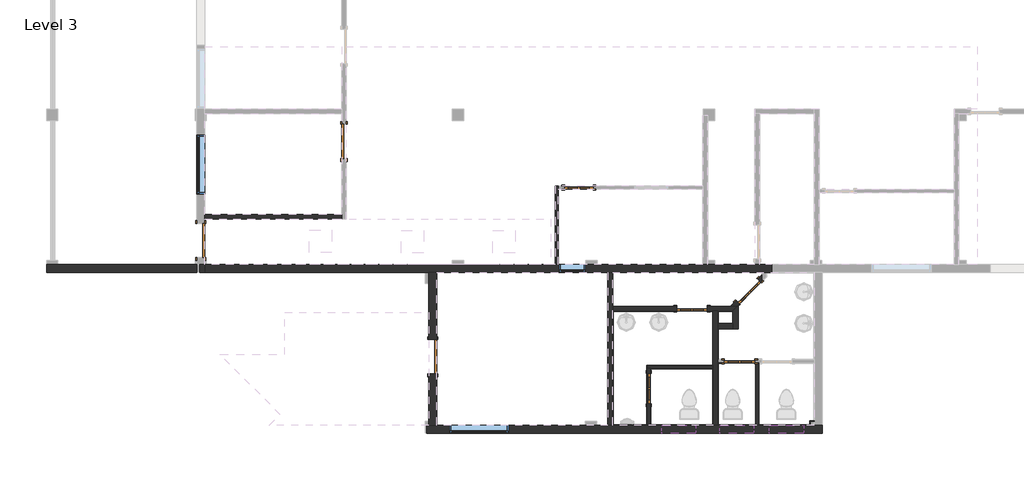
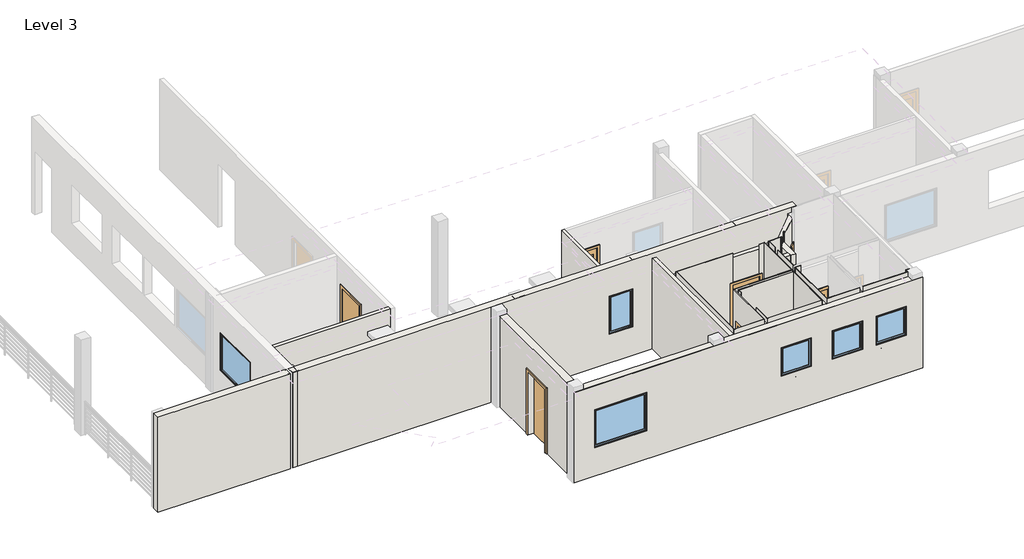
# One storey, part 1 of 4: 39 walls, 8 doors, 6 windows.
"""IFC4 building model written with IfcOpenShell, lengths in millimetres."""

from ifc_helpers import new_model, si_unit, frame, origin, origin_with_axes, place, context, project, spatial, polyline, outline, extrude, faceted_brep, transform, mapped, element, save
from components import door_43f271b1, door_dce19e30, door_ea126e43, door_238e255b, door_9f33a548, door_456b505c, window_b7da1b20, fixed_3_x_3_w3_42a4cb5f, window_a0bf6c86

model = new_model("IFC4")

# Units and contexts
model_context = context("Model", 3, world=origin())
ifc_project = project(units=[si_unit("LENGTHUNIT", "METRE", prefix="MILLI")], contexts=[model_context])

# Site, building, storey
site = spatial("IfcSite", under=ifc_project)
building = spatial("IfcBuilding", under=site)
storey = spatial("IfcBuildingStorey", under=building, Name="Level 3", Elevation=0.0)

# Doors
placement = place(None, origin())
door_shape = door_43f271b1(model_context)
element("IfcDoor", 1, ObjectType="Single-Flush : 36\" x 80\" - D1", at=placement, inside=storey, context=model_context, shape_type="MappedRepresentation", body=[
    mapped(door_shape, transform((-22828.8562367, -194.9058613, 0.0), x_axis=(0.0, 1.0, 0.0), y_axis=(-1.0, 0.0, 0.0), z_axis=(0.0, 0.0, 1.0))),
])
door_2_shape = door_dce19e30(model_context)
element("IfcDoor", 2, ObjectType="Single-Flush : 36\" x 80\" - D1", at=placement, inside=storey, context=model_context, shape_type="MappedRepresentation", body=[
    mapped(door_2_shape, transform((-26653.1437367, -2839.416278, 0.0), x_axis=(0.0, -1.0, 0.0), y_axis=(1.0, 0.0, 0.0), z_axis=(0.0, 0.0, 1.0))),
])
element("IfcDoor", 3, ObjectType="Single-Flush : 36\" x 80\" - D1", at=placement, inside=storey, context=model_context, shape_type="MappedRepresentation", body=[
    mapped(door_2_shape, transform((-20466.6562367, -5946.4183613, 0.0), x_axis=(0.0, -1.0, 0.0), y_axis=(1.0, 0.0, 0.0), z_axis=(0.0, 0.0, 1.0))),
])
door_3_shape = door_ea126e43(model_context)
element("IfcDoor", 4, ObjectType="Single-Glass 3 : 30\" x 80\" - D3", at=placement, inside=storey, context=model_context, shape_type="MappedRepresentation", body=[
    mapped(door_3_shape, transform((-16567.7562367, -1423.6308613, 0.0), x_axis=(-1.0, 0.0, 0.0), y_axis=(0.0, -1.0, 0.0), z_axis=(0.0, 0.0, 1.0))),
])
door_4_shape = door_238e255b(model_context)
element("IfcDoor", 5, ObjectType="Single-Glass 3 : 32\" x 80\" - D2", at=placement, inside=storey, context=model_context, shape_type="MappedRepresentation", body=[
    mapped(door_4_shape, transform((-12041.6148323, -4204.7519569, 0.0), x_axis=(-0.707106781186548, -0.7071067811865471, 0.0), y_axis=(0.7071067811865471, -0.707106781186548, 0.0), z_axis=(0.0, 0.0, 1.0))),
])
door_5_shape = door_9f33a548(model_context)
element("IfcDoor", 6, ObjectType="Single-Glass 3 : 32\" x 80\" - D2", at=placement, inside=storey, context=model_context, shape_type="MappedRepresentation", body=[
    mapped(door_5_shape, transform((-13546.7437367, -4662.1308613, 0.0), x_axis=(1.0, 0.0, 0.0), y_axis=(0.0, 1.0, 0.0), z_axis=(0.0, 0.0, 1.0))),
])
door_6_shape = door_456b505c(model_context)
element("IfcDoor", 7, ObjectType="Single-Glass 3 : 32\" x 80\" - D2", at=placement, inside=storey, context=model_context, shape_type="MappedRepresentation", body=[
    mapped(door_6_shape, transform((-12276.7437367, -6071.8308613, 0.0), x_axis=(1.0, 0.0, 0.0), y_axis=(0.0, 1.0, 0.0), z_axis=(0.0, 0.0, 1.0))),
])
element("IfcDoor", 8, ObjectType="Single-Glass 3 : 32\" x 80\" - D2", at=placement, inside=storey, context=model_context, shape_type="MappedRepresentation", body=[
    mapped(door_6_shape, transform((-14704.0312367, -6797.3183613, 0.0), x_axis=(0.0, 1.0, 0.0), y_axis=(-1.0, 0.0, 0.0), z_axis=(0.0, 0.0, 1.0))),
])

# Walls
element("IfcWall", 9, ObjectType="0.5\" wall tiles-4\" x 6\"", at=placement, inside=storey, context=model_context, shape_type="Brep", body=[
    faceted_brep([(-13954.5537607, -4725.6308613, 0.0), (-15666.0562367, -4725.6308613, 0.0), (-15666.0562367, -4725.6308613, 3048.0), (-13954.5537607, -4725.6308613, 3048.0), (-13954.5537607, -4738.3308613, 0.0), (-13954.5537607, -4738.3308613, 3048.0), (-15653.3562367, -4738.3308613, 3048.0), (-15666.0562367, -4738.3308613, 3048.0), (-15666.0562367, -4738.3308613, 0.0), (-15653.3562367, -4738.3308613, 0.0)], [[[0, 1, 2, 3]], [[4, 5, 6, 7, 8, 9]], [[1, 0, 4, 9, 8]], [[3, 2, 7, 6, 5]], [[0, 3, 5, 4]], [[2, 1, 8, 7]]]),
])
element("IfcWall", 10, ObjectType="0.5\" wall tiles-4\" x 6\"", at=placement, inside=storey, context=model_context, shape_type="Brep", body=[
    faceted_brep([(-15666.0562367, -4738.3308613, 0.0), (-15666.0562367, -7775.2183613, 0.0), (-15666.0562367, -7775.2183613, 3048.0), (-15666.0562367, -4738.3308613, 3048.0), (-15653.3562367, -4738.3308613, 0.0), (-15653.3562367, -4738.3308613, 3048.0), (-15653.3562367, -7762.5183613, 3048.0), (-15653.3562367, -7775.2183613, 3048.0), (-15653.3562367, -7775.2183613, 0.0), (-15653.3562367, -7762.5183613, 0.0)], [[[0, 1, 2, 3]], [[4, 5, 6, 7, 8, 9]], [[1, 0, 4, 9, 8]], [[3, 2, 7, 6, 5]], [[2, 1, 8, 7]], [[0, 3, 5, 4]]]),
])
element("IfcWall", 11, ObjectType="0.5\" wall tiles-4\" x 6\"", at=placement, inside=storey, context=model_context, shape_type="Brep", body=[
    faceted_brep([(-15653.3562367, -7775.2183613, 0.0), (-14743.7187367, -7775.2183613, 0.0), (-14743.7187367, -7775.2183613, 3048.0), (-15653.3562367, -7775.2183613, 3048.0), (-15653.3562367, -7762.5183613, 0.0), (-15653.3562367, -7762.5183613, 3048.0), (-14756.4187367, -7762.5183613, 3048.0), (-14743.7187367, -7762.5183613, 3048.0), (-14743.7187367, -7762.5183613, 0.0), (-14756.4187367, -7762.5183613, 0.0)], [[[0, 1, 2, 3]], [[4, 5, 6, 7, 8, 9]], [[1, 0, 4, 9, 8]], [[3, 2, 7, 6, 5]], [[2, 1, 8, 7]], [[0, 3, 5, 4]]]),
])
element("IfcWall", 12, ObjectType="0.5\" wall tiles-4\" x 6\"", at=placement, inside=storey, context=model_context, shape_type="Brep", body=[
    faceted_brep([(-14743.7187367, -7762.5183613, 0.0), (-14743.7187367, -6184.5433613, 0.0), (-14743.7187367, -6171.8433613, 0.0), (-14743.7187367, -6171.8433613, 3048.0), (-14743.7187367, -6184.5433613, 3048.0), (-14743.7187367, -7762.5183613, 3048.0), (-14756.4187367, -7762.5183613, 0.0), (-14756.4187367, -7762.5183613, 3048.0), (-14756.4187367, -6171.8433613, 3048.0), (-14756.4187367, -6171.8433613, 0.0)], [[[0, 1, 2, 3, 4, 5]], [[6, 7, 8, 9]], [[2, 1, 0, 6, 9]], [[5, 4, 3, 8, 7]], [[3, 2, 9, 8]], [[0, 5, 7, 6]]]),
])
element("IfcWall", 13, ObjectType="0.5\" wall tiles-4\" x 6\"", at=placement, inside=storey, context=model_context, shape_type="Brep", body=[
    faceted_brep([(-14743.7187367, -6184.5433613, 0.0), (-12987.9437367, -6184.5433613, 0.0), (-12987.9437367, -6184.5433613, 3048.0), (-14743.7187367, -6184.5433613, 3048.0), (-14743.7187367, -6171.8433613, 0.0), (-14743.7187367, -6171.8433613, 3048.0), (-13000.6437367, -6171.8433613, 3048.0), (-12987.9437367, -6171.8433613, 3048.0), (-12987.9437367, -6171.8433613, 0.0), (-13000.6437367, -6171.8433613, 0.0)], [[[0, 1, 2, 3]], [[4, 5, 6, 7, 8, 9]], [[1, 0, 4, 9, 8]], [[3, 2, 7, 6, 5]], [[2, 1, 8, 7]], [[0, 3, 5, 4]]]),
])
element("IfcWall", 14, ObjectType="0.5\" wall tiles-4\" x 6\"", at=placement, inside=storey, context=model_context, shape_type="Brep", body=[
    faceted_brep([(-12987.9437367, -6171.8433613, 0.0), (-12987.9437367, -4725.6308613, 0.0), (-12987.9437367, -4725.6308613, 3048.0), (-12987.9437367, -6171.8433613, 3048.0), (-13000.6437367, -6171.8433613, 0.0), (-13000.6437367, -6171.8433613, 3048.0), (-13000.6437367, -4738.3308613, 3048.0), (-13000.6437367, -4725.6308613, 3048.0), (-13000.6437367, -4725.6308613, 0.0), (-13000.6437367, -4738.3308613, 0.0)], [[[0, 1, 2, 3]], [[4, 5, 6, 7, 8, 9]], [[1, 0, 4, 9, 8]], [[3, 2, 7, 6, 5]], [[2, 1, 8, 7]], [[0, 3, 5, 4]]]),
])
element("IfcWall", 15, ObjectType="0.5\" wall tiles-4\" x 6\"", at=placement, inside=storey, context=model_context, shape_type="SweptSolid", body=[
    extrude(outline(polyline([(-13140.3437367, -4725.6308613), (-13000.6437367, -4725.6308613), (-13000.6437367, -4738.3308613), (-13140.3437367, -4738.3308613), (-13140.3437367, -4725.6308613)])), origin_with_axes(), (0.0, 0.0, 1.0), 3048.0),
])
element("IfcWall", 16, ObjectType="0.5\" wall tiles-4\" x 6\"", at=placement, inside=storey, context=model_context, shape_type="Brep", body=[
    faceted_brep([(-12987.9437367, -6263.9183613, 0.0), (-14664.3437367, -6263.9183613, 0.0), (-14664.3437367, -6263.9183613, 3048.0), (-12987.9437367, -6263.9183613, 3048.0), (-12987.9437367, -6276.6183613, 0.0), (-12987.9437367, -6276.6183613, 3048.0), (-13000.6437367, -6276.6183613, 3048.0), (-14651.6437367, -6276.6183613, 3048.0), (-14664.3437367, -6276.6183613, 3048.0), (-14664.3437367, -6276.6183613, 0.0), (-14651.6437367, -6276.6183613, 0.0), (-13000.6437367, -6276.6183613, 0.0)], [[[0, 1, 2, 3]], [[4, 5, 6, 7, 8, 9, 10, 11]], [[1, 0, 4, 11, 10, 9]], [[3, 2, 8, 7, 6, 5]], [[2, 1, 9, 8]], [[0, 3, 5, 4]]]),
])
element("IfcWall", 17, ObjectType="0.5\" wall tiles-4\" x 6\"", at=placement, inside=storey, context=model_context, shape_type="SweptSolid", body=[
    extrude(outline(polyline([(-14664.3437367, -6390.9183613), (-14664.3437367, -6276.6183613), (-14651.6437367, -6276.6183613), (-14651.6437367, -6390.9183613), (-14664.3437367, -6390.9183613)])), origin_with_axes(), (0.0, 0.0, 1.0), 3048.0),
])
element("IfcWall", 18, ObjectType="0.5\" wall tiles-4\" x 6\"", at=placement, inside=storey, context=model_context, shape_type="Brep", body=[
    faceted_brep([(-12987.9437367, -7775.2183613, 0.0), (-12987.9437367, -6276.6183613, 0.0), (-12987.9437367, -6276.6183613, 3048.0), (-12987.9437367, -7775.2183613, 3048.0), (-13000.6437367, -7775.2183613, 0.0), (-13000.6437367, -7775.2183613, 3048.0), (-13000.6437367, -7762.5183613, 3048.0), (-13000.6437367, -6276.6183613, 3048.0), (-13000.6437367, -6276.6183613, 0.0), (-13000.6437367, -7762.5183613, 0.0)], [[[0, 1, 2, 3]], [[4, 5, 6, 7, 8, 9]], [[1, 0, 4, 9, 8]], [[3, 2, 7, 6, 5]], [[0, 3, 5, 4]], [[2, 1, 8, 7]]]),
])
element("IfcWall", 19, ObjectType="0.5\" wall tiles-4\" x 6\"", at=placement, inside=storey, context=model_context, shape_type="Brep", body=[
    faceted_brep([(-14664.3437367, -7205.1283853, 0.0), (-14664.3437367, -7775.2183613, 0.0), (-14664.3437367, -7775.2183613, 3048.0), (-14664.3437367, -7205.1283853, 3048.0), (-14651.6437367, -7205.1283853, 0.0), (-14651.6437367, -7205.1283853, 3048.0), (-14651.6437367, -7762.5183613, 3048.0), (-14651.6437367, -7775.2183613, 3048.0), (-14651.6437367, -7775.2183613, 0.0), (-14651.6437367, -7762.5183613, 0.0)], [[[0, 1, 2, 3]], [[4, 5, 6, 7, 8, 9]], [[1, 0, 4, 9, 8]], [[3, 2, 7, 6, 5]], [[0, 3, 5, 4]], [[2, 1, 8, 7]]]),
])
element("IfcWall", 20, ObjectType="0.5\" wall tiles-4\" x 6\"", at=placement, inside=storey, context=model_context, shape_type="SweptSolid", body=[
    extrude(outline(polyline([(-13000.6437367, -7775.2183613), (-14651.6437367, -7775.2183613), (-14651.6437367, -7762.5183613), (-13000.6437367, -7762.5183613), (-13000.6437367, -7775.2183613)])), origin_with_axes(), (0.0, 0.0, 1.0), 3048.0),
])
element("IfcWall", 21, ObjectType="0.5\" wall tiles-4\" x 6\"", at=placement, inside=storey, context=model_context, shape_type="Brep", body=[
    faceted_brep([(-12285.1165867, -4535.8112085, 0.0), (-12311.1969338, -4561.8915556, 0.0), (-12311.1969338, -4561.8915556, 2743.2), (-12311.1969338, -4561.8915556, 3048.0), (-12285.1165867, -4535.8112085, 3048.0), (-12276.1363305, -4544.7914646, 0.0), (-12276.1363305, -4544.7914646, 3048.0), (-12311.1969338, -4579.8520679, 3048.0), (-12311.1969338, -4579.8520679, 0.0)], [[[0, 1, 2, 3, 4]], [[5, 6, 7, 8]], [[1, 0, 5, 8]], [[4, 3, 7, 6]], [[0, 4, 6, 5]], [[3, 2, 1, 8, 7]]]),
])
element("IfcWall", 22, ObjectType="0.5\" wall tiles-4\" x 6\"", at=placement, inside=storey, context=model_context, shape_type="Brep", body=[
    faceted_brep([(-12474.9362395, -4725.6308613, 0.0), (-12860.9437367, -4725.6308613, 0.0), (-12860.9437367, -4725.6308613, 3048.0), (-12474.9362395, -4725.6308613, 3048.0), (-12487.6362395, -4738.3308613, 0.0), (-12487.6362395, -4738.3308613, 3048.0), (-12848.2437367, -4738.3308613, 3048.0), (-12860.9437367, -4738.3308613, 3048.0), (-12860.9437367, -4738.3308613, 0.0), (-12848.2437367, -4738.3308613, 0.0)], [[[0, 1, 2, 3]], [[4, 5, 6, 7, 8, 9]], [[1, 0, 4, 9, 8]], [[3, 2, 7, 6, 5]], [[2, 1, 8, 7]], [[0, 3, 5, 4]]]),
])
element("IfcWall", 23, ObjectType="0.5\" wall tiles-4\" x 6\"", at=placement, inside=storey, context=model_context, shape_type="Brep", body=[
    faceted_brep([(-12860.9437367, -4738.3308613, 0.0), (-12860.9437367, -5055.8308613, 0.0), (-12860.9437367, -5055.8308613, 2743.2), (-12860.9437367, -5055.8308613, 3048.0), (-12860.9437367, -4738.3308613, 3048.0), (-12848.2437367, -4738.3308613, 0.0), (-12848.2437367, -4738.3308613, 3048.0), (-12848.2437367, -5055.8308613, 3048.0), (-12848.2437367, -5055.8308613, 0.0)], [[[0, 1, 2, 3, 4]], [[5, 6, 7, 8]], [[1, 0, 5, 8]], [[4, 3, 7, 6]], [[0, 4, 6, 5]], [[3, 2, 1, 8, 7]]]),
])
element("IfcWall", 24, ObjectType="0.5\" wall tiles-4\" x 6\"", at=placement, inside=storey, context=model_context, shape_type="Brep", body=[
    faceted_brep([(-12860.9437367, -5208.2308613, 0.0), (-12860.9437367, -6019.4433613, 0.0), (-12860.9437367, -6019.4433613, 3048.0), (-12860.9437367, -5208.2308613, 3048.0), (-12860.9437367, -5208.2308613, 2743.2), (-12848.2437367, -5208.2308613, 0.0), (-12848.2437367, -5208.2308613, 3048.0), (-12848.2437367, -6019.4433613, 3048.0), (-12848.2437367, -6019.4433613, 0.0)], [[[0, 1, 2, 3, 4]], [[5, 6, 7, 8]], [[1, 0, 5, 8]], [[3, 2, 7, 6]], [[2, 1, 8, 7]], [[0, 4, 3, 6, 5]]]),
])
element("IfcWall", 25, ObjectType="0.5\" wall tiles-4\" x 6\"", at=placement, inside=storey, context=model_context, shape_type="Brep", body=[
    faceted_brep([(-12463.5969338, -4714.2915556, 0.0), (-12474.9362395, -4725.6308613, 0.0), (-12487.6362395, -4738.3308613, 0.0), (-12487.6362395, -4738.3308613, 3048.0), (-12474.9362395, -4725.6308613, 3048.0), (-12463.5969338, -4714.2915556, 3048.0), (-12463.5969338, -4714.2915556, 2743.2), (-12463.5969338, -4732.2520679, 0.0), (-12463.5969338, -4732.2520679, 3048.0), (-12469.6757273, -4738.3308613, 3048.0), (-12469.6757273, -4738.3308613, 0.0)], [[[0, 1, 2, 3, 4, 5, 6]], [[7, 8, 9, 10]], [[2, 1, 0, 7, 10]], [[5, 4, 3, 9, 8]], [[3, 2, 10, 9]], [[0, 6, 5, 8, 7]]]),
])
element("IfcWall", 26, ObjectType="0.5\" wall tiles-4\" x 6\"", at=placement, inside=storey, context=model_context, shape_type="Brep", body=[
    faceted_brep([(-12683.2677532, -6111.5183613, 0.0), (-12860.9437367, -6111.5183613, 0.0), (-12860.9437367, -6111.5183613, 3048.0), (-12683.2677532, -6111.5183613, 3048.0), (-12683.2677532, -6124.2183613, 0.0), (-12683.2677532, -6124.2183613, 3048.0), (-12848.2437367, -6124.2183613, 3048.0), (-12860.9437367, -6124.2183613, 3048.0), (-12860.9437367, -6124.2183613, 0.0), (-12848.2437367, -6124.2183613, 0.0)], [[[0, 1, 2, 3]], [[4, 5, 6, 7, 8, 9]], [[1, 0, 4, 9, 8]], [[3, 2, 7, 6, 5]], [[0, 3, 5, 4]], [[2, 1, 8, 7]]]),
])
element("IfcWall", 27, ObjectType="0.5\" wall tiles-4\" x 6\"", at=placement, inside=storey, context=model_context, shape_type="Brep", body=[
    faceted_brep([(-12860.9437367, -6124.2183613, 0.0), (-12860.9437367, -7775.2183613, 0.0), (-12860.9437367, -7775.2183613, 3048.0), (-12860.9437367, -6124.2183613, 3048.0), (-12848.2437367, -6124.2183613, 0.0), (-12848.2437367, -6124.2183613, 3048.0), (-12848.2437367, -7762.5183613, 3048.0), (-12848.2437367, -7775.2183613, 3048.0), (-12848.2437367, -7775.2183613, 0.0), (-12848.2437367, -7762.5183613, 0.0)], [[[0, 1, 2, 3]], [[4, 5, 6, 7, 8, 9]], [[1, 0, 4, 9, 8]], [[3, 2, 7, 6, 5]], [[2, 1, 8, 7]], [[0, 3, 5, 4]]]),
])
element("IfcWall", 28, ObjectType="0.5\" wall tiles-4\" x 6\"", at=placement, inside=storey, context=model_context, shape_type="Brep", body=[
    faceted_brep([(-12848.2437367, -7775.2183613, 0.0), (-11848.1187367, -7775.2183613, 0.0), (-11848.1187367, -7775.2183613, 3048.0), (-12848.2437367, -7775.2183613, 3048.0), (-12848.2437367, -7762.5183613, 0.0), (-12848.2437367, -7762.5183613, 3048.0), (-11860.8187367, -7762.5183613, 3048.0), (-11848.1187367, -7762.5183613, 3048.0), (-11848.1187367, -7762.5183613, 0.0), (-11860.8187367, -7762.5183613, 0.0)], [[[0, 1, 2, 3]], [[4, 5, 6, 7, 8, 9]], [[1, 0, 4, 9, 8]], [[3, 2, 7, 6, 5]], [[2, 1, 8, 7]], [[0, 3, 5, 4]]]),
])
element("IfcWall", 29, ObjectType="0.5\" wall tiles-4\" x 6\"", at=placement, inside=storey, context=model_context, shape_type="Brep", body=[
    faceted_brep([(-11756.0437367, -7775.2183613, 0.0), (-10389.2062367, -7775.2183613, 0.0), (-10389.2062367, -7775.2183613, 3048.0), (-11756.0437367, -7775.2183613, 3048.0), (-11756.0437367, -7762.5183613, 0.0), (-11756.0437367, -7762.5183613, 3048.0), (-10401.9062367, -7762.5183613, 3048.0), (-10389.2062367, -7762.5183613, 3048.0), (-10389.2062367, -7762.5183613, 0.0), (-10401.9062367, -7762.5183613, 0.0)], [[[0, 1, 2, 3]], [[4, 5, 6, 7, 8, 9]], [[1, 0, 4, 9, 8]], [[3, 2, 7, 6, 5]], [[2, 1, 8, 7]], [[0, 3, 5, 4]]]),
])
element("IfcWall", 30, ObjectType="0.5\" wall tiles-4\" x 6\"", at=placement, inside=storey, context=model_context, shape_type="Brep", body=[
    faceted_brep([(-10389.2062367, -7762.5183613, 0.0), (-10389.2062367, -7676.7933613, 0.0), (-10389.2062367, -7664.0933613, 0.0), (-10389.2062367, -7664.0933613, 3048.0), (-10389.2062367, -7676.7933613, 3048.0), (-10389.2062367, -7762.5183613, 3048.0), (-10401.9062367, -7762.5183613, 0.0), (-10401.9062367, -7762.5183613, 3048.0), (-10401.9062367, -7664.0933613, 3048.0), (-10401.9062367, -7664.0933613, 0.0)], [[[0, 1, 2, 3, 4, 5]], [[6, 7, 8, 9]], [[2, 1, 0, 6, 9]], [[5, 4, 3, 8, 7]], [[3, 2, 9, 8]], [[0, 5, 7, 6]]]),
])
element("IfcWall", 31, ObjectType="0.5\" wall tiles-4\" x 6\"", at=placement, inside=storey, context=model_context, shape_type="Brep", body=[
    faceted_brep([(-10389.2062367, -7676.7933613, 0.0), (-10290.7812367, -7676.7933613, 0.0), (-10290.7812367, -7676.7933613, 3048.0), (-10389.2062367, -7676.7933613, 3048.0), (-10389.2062367, -7664.0933613, 0.0), (-10389.2062367, -7664.0933613, 3048.0), (-10303.4812367, -7664.0933613, 3048.0), (-10290.7812367, -7664.0933613, 3048.0), (-10290.7812367, -7664.0933613, 0.0), (-10303.4812367, -7664.0933613, 0.0)], [[[0, 1, 2, 3]], [[4, 5, 6, 7, 8, 9]], [[1, 0, 4, 9, 8]], [[3, 2, 7, 6, 5]], [[2, 1, 8, 7]], [[0, 3, 5, 4]]]),
])
element("IfcWall", 32, ObjectType="Generic - 6\"", at=placement, inside=storey, context=model_context, shape_type="Brep", body=[
    faceted_brep([(-12463.5969338, -4714.2915556, 0.0), (-12463.5969338, -4732.2520679, 0.0), (-12463.5969338, -5055.8308613, 0.0), (-12463.5969338, -5208.2308613, 0.0), (-12463.5969338, -5208.2308613, 2743.2), (-12463.5969338, -5055.8308613, 2743.2), (-12463.5969338, -4714.2915556, 2743.2), (-12311.1969338, -4561.8915556, 0.0), (-12311.1969338, -4561.8915556, 2743.2), (-12311.1969338, -5208.2308613, 2743.2), (-12311.1969338, -5208.2308613, 0.0), (-12311.1969338, -4579.8520679, 0.0), (-12347.9362395, -4598.6308613, 0.0)], [[[0, 1, 2, 3, 4, 5, 6]], [[7, 8, 9, 10, 11]], [[3, 2, 1, 0, 12, 7, 11, 10]], [[6, 5, 4, 9, 8]], [[4, 3, 10, 9]], [[0, 6, 8, 7, 12]]]),
])
element("IfcWall", 33, ObjectType="Generic - 6\"", at=placement, inside=storey, context=model_context, shape_type="Brep", body=[
    faceted_brep([(-12463.5969338, -5055.8308613, 0.0), (-12848.2437367, -5055.8308613, 0.0), (-12860.9437367, -5055.8308613, 0.0), (-12860.9437367, -5055.8308613, 2743.2), (-12463.5969338, -5055.8308613, 2743.2), (-12463.5969338, -5208.2308613, 0.0), (-12463.5969338, -5208.2308613, 2743.2), (-12860.9437367, -5208.2308613, 2743.2), (-12860.9437367, -5208.2308613, 0.0), (-12848.2437367, -5208.2308613, 0.0)], [[[0, 1, 2, 3, 4]], [[5, 6, 7, 8, 9]], [[2, 1, 0, 5, 9, 8]], [[4, 3, 7, 6]], [[3, 2, 8, 7]], [[0, 4, 6, 5]]]),
])
element("IfcWall", 34, ObjectType="Generic - 8\" Masonry existing", at=placement, inside=storey, context=model_context, shape_type="SweptSolid", body=[
    extrude(outline(polyline([(-26762.6812367, -3696.9308613), (-30767.9437367, -3696.9308613), (-30767.9437367, -3477.8558613), (-26762.6812367, -3477.8558613), (-26762.6812367, -3696.9308613)])), origin_with_axes(), (0.0, 0.0, 1.0), 3048.0),
])
element("IfcWall", 35, ObjectType="Generic - 8\" Masonry existing", at=placement, inside=storey, context=model_context, shape_type="SweptSolid", body=[
    extrude(outline(polyline([(-6403.6183613, 2032.0), (-6403.6183613, 0.0), (-7775.2183613, 0.0), (-7775.2183613, 2895.6), (-3696.9308613, 2895.6), (-3696.9308613, 0.0), (-5489.2183613, 0.0), (-5489.2183613, 2032.0), (-6403.6183613, 2032.0)])), frame((-20576.1937367, 0.0, 0.0), z_axis=(1.0, 0.0, 0.0), x_axis=(0.0, 1.0, 0.0)), (0.0, 0.0, 1.0), 219.075),
])
element("IfcWall", 36, ObjectType="Generic - 8\" Masonry existing", at=placement, inside=storey, context=model_context, shape_type="Brep", body=[
    faceted_brep([(-20625.5991484, -7994.2933613, 0.0), (-20625.5991484, -7994.2933613, 2895.6), (-20625.5991484, -7981.5933613, 2895.6), (-20625.5991484, -7775.2183613, 2895.6), (-20625.5991484, -7775.2183613, 0.0), (-10071.7062367, -7994.2933613, 0.0), (-20576.1937367, -7775.2183613, 0.0), (-20357.1187367, -7775.2183613, 0.0), (-15789.8812367, -7775.2183613, 0.0), (-15666.0562367, -7775.2183613, 0.0), (-14743.7187367, -7775.2183613, 0.0), (-14664.3437367, -7775.2183613, 0.0), (-12987.9437367, -7775.2183613, 0.0), (-12860.9437367, -7775.2183613, 0.0), (-11848.1187367, -7775.2183613, 0.0), (-11768.7437367, -7775.2183613, 0.0), (-10290.7812367, -7775.2183613, 0.0), (-10071.7062367, -7775.2183613, 0.0), (-10071.7062367, -7994.2933613, 2895.6), (-10084.4062367, -7994.2933613, 2895.6), (-14359.5437367, -7994.2933613, 2133.6), (-13445.1437367, -7994.2933613, 2133.6), (-13445.1437367, -7994.2933613, 1219.2), (-14359.5437367, -7994.2933613, 1219.2), (-12811.7312367, -7994.2933613, 2133.6), (-11897.3312367, -7994.2933613, 2133.6), (-11897.3312367, -7994.2933613, 1219.2), (-12811.7312367, -7994.2933613, 1219.2), (-11486.9624867, -7994.2933613, 2133.6), (-10572.5624867, -7994.2933613, 2133.6), (-10572.5624867, -7994.2933613, 1219.2), (-11486.9624867, -7994.2933613, 1219.2), (-20017.3937367, -7994.2933613, 2133.6), (-18442.5937367, -7994.2933613, 2133.6), (-18442.5937367, -7994.2933613, 914.4), (-20017.3937367, -7994.2933613, 914.4), (-20576.1937367, -7775.2183613, 2895.6), (-20357.1187367, -7775.2183613, 2895.6), (-15789.8812367, -7775.2183613, 2895.6), (-15666.0562367, -7775.2183613, 2895.6), (-14743.7187367, -7775.2183613, 2895.6), (-14664.3437367, -7775.2183613, 2895.6), (-12987.9437367, -7775.2183613, 2895.6), (-12860.9437367, -7775.2183613, 2895.6), (-11848.1187367, -7775.2183613, 2895.6), (-11768.7437367, -7775.2183613, 2895.6), (-10290.7812367, -7775.2183613, 2895.6), (-10084.4062367, -7775.2183613, 2895.6), (-10071.7062367, -7775.2183613, 2895.6), (-14359.5437367, -7775.2183613, 2133.6), (-14359.5437367, -7775.2183613, 1219.2), (-13445.1437367, -7775.2183613, 1219.2), (-13445.1437367, -7775.2183613, 2133.6), (-12811.7312367, -7775.2183613, 2133.6), (-12811.7312367, -7775.2183613, 1219.2), (-11897.3312367, -7775.2183613, 1219.2), (-11897.3312367, -7775.2183613, 2133.6), (-11486.9624867, -7775.2183613, 2133.6), (-11486.9624867, -7775.2183613, 1219.2), (-10572.5624867, -7775.2183613, 1219.2), (-10572.5624867, -7775.2183613, 2133.6), (-20017.3937367, -7775.2183613, 2133.6), (-20017.3937367, -7775.2183613, 914.4), (-18442.5937367, -7775.2183613, 914.4), (-18442.5937367, -7775.2183613, 2133.6), (-10071.7062367, -7981.5933613, 2895.6), (-10084.4062367, -7981.5933613, 2895.6)], [[[0, 1, 2, 3, 4]], [[5, 0, 4, 6, 7, 8, 9, 10, 11, 12, 13, 14, 15, 16, 17]], [[0, 5, 18, 19, 1], [20, 21, 22, 23], [24, 25, 26, 27], [28, 29, 30, 31], [32, 33, 34, 35]], [[4, 3, 36, 37, 38, 39, 40, 41, 42, 43, 44, 45, 46, 47, 48, 17, 16, 15, 14, 13, 12, 11, 10, 9, 8, 7, 6], [49, 50, 51, 52], [53, 54, 55, 56], [57, 58, 59, 60], [61, 62, 63, 64]], [[18, 5, 17, 48, 65]], [[1, 19, 66, 2]], [[65, 48, 47, 66]], [[19, 18, 65, 66]], [[66, 47, 46, 45, 44, 43, 42, 41, 40, 39, 38, 37, 36, 3, 2]], [[50, 49, 20, 23]], [[51, 50, 23, 22]], [[52, 51, 22, 21]], [[49, 52, 21, 20]], [[54, 53, 24, 27]], [[55, 54, 27, 26]], [[56, 55, 26, 25]], [[53, 56, 25, 24]], [[58, 57, 28, 31]], [[59, 58, 31, 30]], [[60, 59, 30, 29]], [[57, 60, 29, 28]], [[62, 61, 32, 35]], [[63, 62, 35, 34]], [[64, 63, 34, 33]], [[61, 64, 33, 32]]]),
])
element("IfcWall", 37, ObjectType="Generic - 8\" Masonry existing", at=placement, inside=storey, context=model_context, shape_type="Brep", body=[
    faceted_brep([(-11425.8437367, -3696.9308613, 3048.0), (-11425.8437367, -3696.9308613, 2895.6), (-11425.8437367, -3696.9308613, 0.0), (-11425.8437367, -3477.8558613, 0.0), (-11425.8437367, -3477.8558613, 2895.6), (-11425.8437367, -3477.8558613, 3048.0), (-11560.7812367, -3696.9308613, 0.0), (-11684.6062367, -3696.9308613, 0.0), (-15666.0562367, -3696.9308613, 0.0), (-15789.8812367, -3696.9308613, 0.0), (-20357.1187367, -3696.9308613, 0.0), (-20576.1937367, -3696.9308613, 0.0), (-26543.6062367, -3696.9308613, 0.0), (-26543.6062367, -3477.8558613, 0.0), (-17201.1687367, -3477.8558613, 0.0), (-17121.7937367, -3477.8558613, 0.0), (-13257.8187367, -3477.8558613, 0.0), (-13133.9937367, -3477.8558613, 0.0), (-11868.7562367, -3477.8558613, 0.0), (-11744.9312367, -3477.8558613, 0.0), (-26543.6062367, -3696.9308613, 3048.0), (-26543.6062367, -3477.8558613, 3048.0), (-17096.3937367, -3696.9308613, 2133.6), (-16385.1937367, -3696.9308613, 2133.6), (-16385.1937367, -3696.9308613, 914.4), (-17096.3937367, -3696.9308613, 914.4), (-17096.3937367, -3477.8558613, 2133.6), (-17096.3937367, -3477.8558613, 914.4), (-16385.1937367, -3477.8558613, 914.4), (-16385.1937367, -3477.8558613, 2133.6)], [[[0, 1, 2, 3, 4, 5]], [[2, 6, 7, 8, 9, 10, 11, 12, 13, 14, 15, 16, 17, 18, 19, 3]], [[20, 0, 5, 21]], [[12, 11, 10, 9, 8, 7, 6, 2, 1, 0, 20], [22, 23, 24, 25]], [[13, 21, 5, 4, 3, 19, 18, 17, 16, 15, 14], [26, 27, 28, 29]], [[12, 20, 21, 13]], [[27, 26, 22, 25]], [[28, 27, 25, 24]], [[29, 28, 24, 23]], [[26, 29, 23, 22]]]),
])
element("IfcWall", 38, ObjectType="Generic - 8\" Masonry existing", at=placement, inside=storey, context=model_context, shape_type="SweptSolid", body=[
    extrude(outline(polyline([(-26543.6062367, -3696.9308613), (-26686.4812367, -3696.9308613), (-26686.4812367, -3477.8558613), (-26543.6062367, -3477.8558613), (-26543.6062367, -3696.9308613)])), origin_with_axes(), (0.0, 0.0, 1.0), 3048.0),
])
element("IfcWall", 39, ObjectType="Interior - 3 1/8\" Partition (1-hr)", at=placement, inside=storey, context=model_context, shape_type="Brep", body=[
    faceted_brep([(-17201.1687367, -1383.9433613, 0.0), (-17201.1687367, -3477.8558613, 0.0), (-17201.1687367, -3477.8558613, 2895.6), (-17201.1687367, -1383.9433613, 2895.6), (-17121.7937367, -1383.9433613, 0.0), (-17121.7937367, -1383.9433613, 2895.6), (-17121.7937367, -1463.3183613, 2895.6), (-17121.7937367, -3477.8558613, 2895.6), (-17121.7937367, -3477.8558613, 0.0), (-17121.7937367, -1463.3183613, 0.0)], [[[0, 1, 2, 3]], [[4, 5, 6, 7, 8, 9]], [[1, 0, 4, 9, 8]], [[3, 2, 7, 6, 5]], [[0, 3, 5, 4]], [[2, 1, 8, 7]]]),
])
element("IfcWall", 40, ObjectType="Interior - 3 1/8\" Partition (1-hr)", at=placement, inside=storey, context=model_context, shape_type="SweptSolid", body=[
    extrude(outline(polyline([(-11768.7437367, -6111.5183613), (-11768.7437367, -7775.2183613), (-11848.1187367, -7775.2183613), (-11848.1187367, -6111.5183613), (-11768.7437367, -6111.5183613)])), origin_with_axes(), (0.0, 0.0, 1.0), 2895.6),
])
element("IfcWall", 41, ObjectType="Interior - 3 1/8\" Partition (1-hr)", at=placement, inside=storey, context=model_context, shape_type="Brep", body=[
    faceted_brep([(-12987.9437367, -6184.5433613, 0.0), (-14743.7187367, -6184.5433613, 0.0), (-14743.7187367, -6184.5433613, 2895.6), (-12987.9437367, -6184.5433613, 2895.6), (-12987.9437367, -6263.9183613, 0.0), (-12987.9437367, -6263.9183613, 2895.6), (-14664.3437367, -6263.9183613, 2895.6), (-14743.7187367, -6263.9183613, 2895.6), (-14743.7187367, -6263.9183613, 0.0), (-14664.3437367, -6263.9183613, 0.0)], [[[0, 1, 2, 3]], [[4, 5, 6, 7, 8, 9]], [[1, 0, 4, 9, 8]], [[3, 2, 7, 6, 5]], [[2, 1, 8, 7]], [[0, 3, 5, 4]]]),
])
element("IfcWall", 42, ObjectType="Interior - 3 1/8\" Partition (1-hr)", at=placement, inside=storey, context=model_context, shape_type="SweptSolid", body=[
    extrude(outline(polyline([(-7775.2183613, 2895.6), (-6263.9183613, 2895.6), (-6263.9183613, 0.0), (-6391.0423778, 0.0), (-6391.0423778, 2032.0), (-7203.8423778, 2032.0), (-7203.8423778, 0.0), (-7775.2183613, 0.0), (-7775.2183613, 2895.6)])), frame((-14743.7187367, 0.0, 0.0), z_axis=(1.0, 0.0, 0.0), x_axis=(0.0, 1.0, 0.0)), (0.0, 0.0, 1.0), 79.375),
])
element("IfcWall", 43, ObjectType="Interior - 5 1/2\" Partition (1-hr)", at=placement, inside=storey, context=model_context, shape_type="Brep", body=[
    faceted_brep([(-15789.8812367, -3696.9308613, 0.0), (-15789.8812367, -7775.2183613, 0.0), (-15789.8812367, -7775.2183613, 2895.6), (-15789.8812367, -3696.9308613, 2895.6), (-15666.0562367, -3696.9308613, 0.0), (-15666.0562367, -3696.9308613, 2895.6), (-15666.0562367, -4598.6308613, 2895.6), (-15666.0562367, -4725.6308613, 2895.6), (-15666.0562367, -7775.2183613, 2895.6), (-15666.0562367, -7775.2183613, 0.0), (-15666.0562367, -4725.6308613, 0.0), (-15666.0562367, -4598.6308613, 0.0)], [[[0, 1, 2, 3]], [[4, 5, 6, 7, 8, 9, 10, 11]], [[1, 0, 4, 11, 10, 9]], [[3, 2, 8, 7, 6, 5]], [[2, 1, 9, 8]], [[0, 3, 5, 4]]]),
])
element("IfcWall", 44, ObjectType="Interior - 5 1/2\" Partition (1-hr)", at=placement, inside=storey, context=model_context, shape_type="SweptSolid", body=[
    extrude(outline(polyline([(-22890.7687367, -2269.2391947), (-26543.6062367, -2269.2391947), (-26543.6062367, -2145.4141947), (-22890.7687367, -2145.4141947), (-22890.7687367, -2269.2391947)])), origin_with_axes(), (0.0, 0.0, 1.0), 2895.6),
])
element("IfcWall", 45, ObjectType="Interior - 5 1/2\" Partition (1-hr)", at=placement, inside=storey, context=model_context, shape_type="Brep", body=[
    faceted_brep([(-12523.0512339, -4598.6308613, 2895.6), (-11684.6062367, -3760.1858642, 2895.6), (-11684.6062367, -3760.1858642, 0.0), (-11797.9376921, -3873.5173196, 0.0), (-11797.9376921, -3873.5173196, 2032.0), (-12372.6740838, -4448.2537113, 2032.0), (-12372.6740838, -4448.2537113, 0.0), (-12523.0512339, -4598.6308613, 0.0), (-11684.6062367, -3935.3008585, 2895.6), (-12347.9362395, -4598.6308613, 2895.6), (-12347.9362395, -4598.6308613, 0.0), (-12311.1969338, -4561.8915556, 0.0), (-12285.1165867, -4535.8112085, 0.0), (-12285.1165867, -4535.8112085, 2032.0), (-11710.3801949, -3961.0748167, 2032.0), (-11710.3801949, -3961.0748167, 0.0), (-11684.6062367, -3935.3008585, 0.0)], [[[0, 1, 2, 3, 4, 5, 6, 7]], [[8, 9, 10, 11, 12, 13, 14, 15, 16]], [[2, 16, 15, 3]], [[10, 7, 6, 12, 11]], [[1, 0, 9, 8]], [[2, 1, 8, 16]], [[0, 7, 10, 9]], [[5, 13, 12, 6]], [[13, 5, 4, 14]], [[14, 4, 3, 15]]]),
])
element("IfcWall", 46, ObjectType="Interior - 5\" Partition (2-hr)", at=placement, inside=storey, context=model_context, shape_type="Brep", body=[
    faceted_brep([(-13140.4677532, -4725.6308613, 2032.0), (-13140.4677532, -4725.6308613, 0.0), (-12987.9437367, -4725.6308613, 0.0), (-12860.9437367, -4725.6308613, 0.0), (-12474.9362395, -4725.6308613, 0.0), (-12474.9362395, -4725.6308613, 2895.6), (-12860.9437367, -4725.6308613, 2895.6), (-12987.9437367, -4725.6308613, 2895.6), (-15666.0562367, -4725.6308613, 2895.6), (-15666.0562367, -4725.6308613, 0.0), (-13953.2677532, -4725.6308613, 0.0), (-13953.2677532, -4725.6308613, 2032.0), (-12347.9362395, -4598.6308613, 0.0), (-12523.0512339, -4598.6308613, 0.0), (-13140.4677532, -4598.6308613, 0.0), (-13140.4677532, -4598.6308613, 2032.0), (-13953.2677532, -4598.6308613, 2032.0), (-13953.2677532, -4598.6308613, 0.0), (-15666.0562367, -4598.6308613, 0.0), (-15666.0562367, -4598.6308613, 2895.6), (-12523.0512339, -4598.6308613, 2895.6), (-12347.9362395, -4598.6308613, 2895.6), (-12463.5969338, -4714.2915556, 0.0)], [[[0, 1, 2, 3, 4, 5, 6, 7, 8, 9, 10, 11]], [[12, 13, 14, 15, 16, 17, 18, 19, 20, 21]], [[4, 3, 2, 1, 14, 13, 12, 22]], [[10, 9, 18, 17]], [[8, 7, 6, 5, 21, 20, 19]], [[9, 8, 19, 18]], [[5, 4, 22, 12, 21]], [[15, 14, 1, 0]], [[16, 15, 0, 11]], [[17, 16, 11, 10]]]),
])
element("IfcWall", 47, ObjectType="Interior - 5\" Partition (2-hr)", at=placement, inside=storey, context=model_context, shape_type="Brep", body=[
    faceted_brep([(-12987.9437367, -4725.6308613, 0.0), (-12987.9437367, -6184.5433613, 0.0), (-12987.9437367, -6263.9183613, 0.0), (-12987.9437367, -7775.2183613, 0.0), (-12987.9437367, -7775.2183613, 2895.6), (-12987.9437367, -6263.9183613, 2895.6), (-12987.9437367, -6184.5433613, 2895.6), (-12987.9437367, -4725.6308613, 2895.6), (-12860.9437367, -4725.6308613, 0.0), (-12860.9437367, -4725.6308613, 2895.6), (-12860.9437367, -6032.1433613, 2895.6), (-12860.9437367, -6111.5183613, 2895.6), (-12860.9437367, -7775.2183613, 2895.6), (-12860.9437367, -7775.2183613, 0.0), (-12860.9437367, -6111.5183613, 0.0), (-12860.9437367, -6032.1433613, 0.0), (-12860.9437367, -5208.2308613, 0.0), (-12860.9437367, -5055.8308613, 0.0)], [[[0, 1, 2, 3, 4, 5, 6, 7]], [[8, 9, 10, 11, 12, 13, 14, 15, 16, 17]], [[3, 2, 1, 0, 8, 17, 16, 15, 14, 13]], [[7, 6, 5, 4, 12, 11, 10, 9]], [[4, 3, 13, 12]], [[0, 7, 9, 8]]]),
])

# Windows
window_shape = window_b7da1b20(model_context)
element("IfcWindow", 48, ObjectType="Fixed : 28\" x 48\" - W4", at=placement, inside=storey, context=model_context, shape_type="MappedRepresentation", body=[
    mapped(window_shape, transform((-16778.8937367, -3587.3933613, 0.0), x_axis=(-1.0, 0.0, 0.0), y_axis=(0.0, -1.0, 0.0), z_axis=(0.0, 0.0, 1.0))),
])
fixed_3_x_3_w3_shape = fixed_3_x_3_w3_42a4cb5f(model_context)
element("IfcWindow", 49, ObjectType="Fixed : 3'x 3' - W3", at=placement, inside=storey, context=model_context, shape_type="MappedRepresentation", body=[
    mapped(fixed_3_x_3_w3_shape, transform((-11067.8624867, -7884.7558613, -304.8), x_axis=(-1.0, 0.0, 0.0), y_axis=(0.0, -1.0, 0.0), z_axis=(0.0, 0.0, 1.0))),
])
element("IfcWindow", 50, ObjectType="Fixed : 3'x 3' - W3", at=placement, inside=storey, context=model_context, shape_type="MappedRepresentation", body=[
    mapped(fixed_3_x_3_w3_shape, transform((-12392.6312367, -7884.7558613, -304.8), x_axis=(-1.0, 0.0, 0.0), y_axis=(0.0, -1.0, 0.0), z_axis=(0.0, 0.0, 1.0))),
])
element("IfcWindow", 51, ObjectType="Fixed : 3'x 3' - W3", at=placement, inside=storey, context=model_context, shape_type="MappedRepresentation", body=[
    mapped(fixed_3_x_3_w3_shape, transform((-13940.4437367, -7884.7558613, -304.8), x_axis=(-1.0, 0.0, 0.0), y_axis=(0.0, -1.0, 0.0), z_axis=(0.0, 0.0, 1.0))),
])
window_2_shape = window_a0bf6c86(model_context)
element("IfcWindow", 52, ObjectType="Fixed : 60\" x 48\" - W1", at=placement, inside=storey, context=model_context, shape_type="MappedRepresentation", body=[
    mapped(window_2_shape, transform((-26653.1437367, -772.7558613, 0.0), x_axis=(0.0, 1.0, 0.0), y_axis=(-1.0, 0.0, 0.0), z_axis=(0.0, 0.0, 1.0))),
])
element("IfcWindow", 53, ObjectType="Fixed : 60\" x 48\" - W1", at=placement, inside=storey, context=model_context, shape_type="MappedRepresentation", body=[
    mapped(window_2_shape, transform((-19268.0937367, -7884.7558613, 0.0), x_axis=(-1.0, 0.0, 0.0), y_axis=(0.0, -1.0, 0.0), z_axis=(0.0, 0.0, 1.0))),
])

save(model, "model.ifc")
